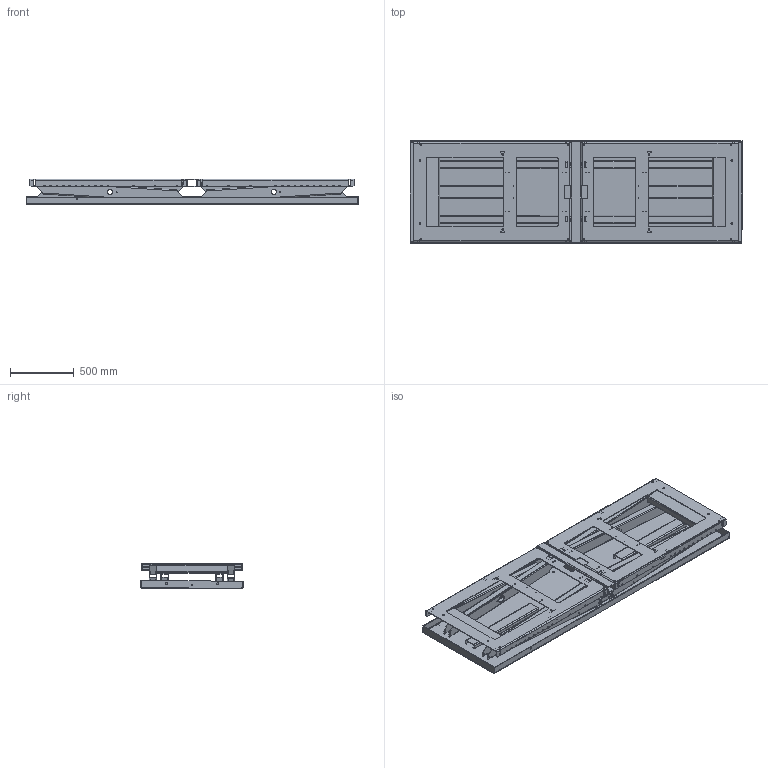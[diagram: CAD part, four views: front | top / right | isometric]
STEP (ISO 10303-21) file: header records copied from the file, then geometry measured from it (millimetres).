
FILE_DESCRIPTION(/* description */ (''),/* implementation_level */ '2;1');
FILE_NAME(/* name */ '\\EDMOFILE01\Users$\JOHSO\Desktop\33115_Botten.stp',/* time_stamp */ '2015-09-03T16:05:30+02:00',/* author */ ('JOHSO'),/* organization */ (''),/* preprocessor_version */ 'ST-DEVELOPER v15.6',/* originating_system */ 'Autodesk Inventor 2015',/* authorisation */ '');
FILE_SCHEMA (('AUTOMOTIVE_DESIGN { 1 0 10303 214 3 1 1 }'));
Length unit declared in the file: millimetre
Products named in the file (22): 35425-1; 45259; 44870; 35425; 35425-1_1; 35425_1; Copy of ISO 4019 - 80x60x4 - 785; 33113; 33104C; 33104C_MIR; 43866C-TL200; 33109C-TL2000; 33103C; 33108C; 34263-TL2000; 34263-TL2000_1; 33114-1; 41333-710; 42744; 82091-89; 33114; 33115
Assembly tree (37 placements, depth 4):
  33115
    33113
      35425
        35425-1
        45259  x2
        44870  x2
      35425_1
        35425-1_1
        45259  x2
        44870  x2
      Copy of ISO 4019 - 80x60x4 - 785
    34263-TL2000
      33109C-TL2000
        33104C
        33104C_MIR
        43866C-TL200
      33108C
        33103C  x2
    34263-TL2000_1
      33109C-TL2000
        33104C
        33104C_MIR
        43866C-TL200
      33108C
        33103C  x2
    33114
      33114-1
      45259  x4
      41333-710  x2
      42744  x2
      82091-89  x2
Bounding box: 2600 x 800.05 x 200.84 mm (x, y, z)
Volume: 35194962.1 mm3; surface area: 14449951.1 mm2
Topology: 32 solids, 32 shells, 1711 faces, 4977 edges, 3326 vertices
Faces by surface type: plane 904, cylinder 755, bspline 52
Full cylindrical faces by diameter (mm): 5.55 x4, 6.6 x16, 7.4 x20, 10.5 x8, 12 x3, 12.5 x6, 13 x16, 14.2 x32, 19 x2, 28.1 x8, 40.2 x8, 60 x8
Entity records: 44719 total; most frequent: CARTESIAN_POINT 9642, ORIENTED_EDGE 7192, DIRECTION 7070, EDGE_CURVE 3596, VERTEX_POINT 2442, AXIS2_PLACEMENT_3D 2362, LINE 2346, VECTOR 2346
